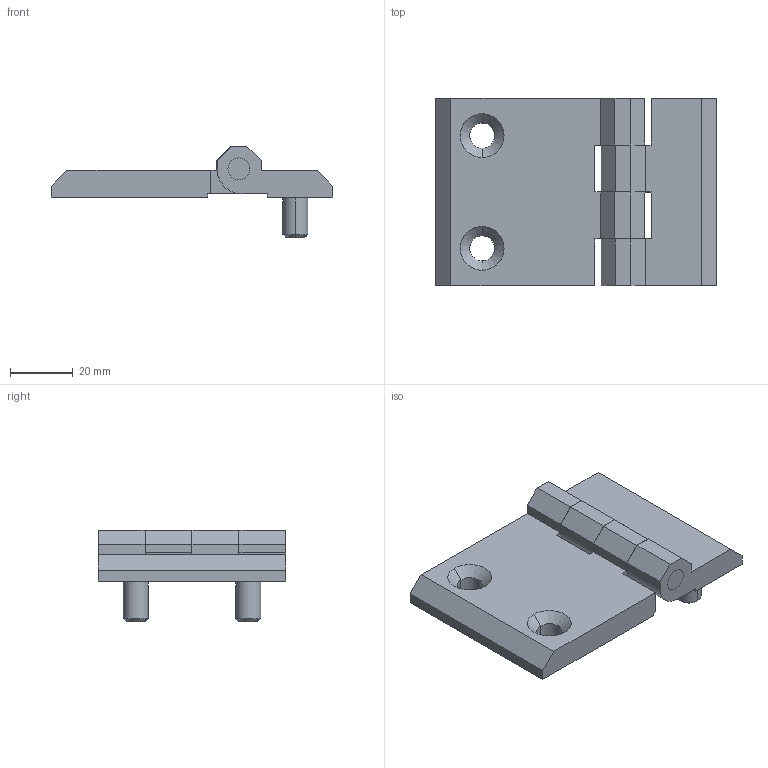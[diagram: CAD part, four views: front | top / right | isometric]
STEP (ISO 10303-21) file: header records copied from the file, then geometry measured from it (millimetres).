
FILE_DESCRIPTION (( 'STEP AP214' ), '1' );
FILE_NAME ('3.512.3.STEP', '2012-01-27T11:54:35', ( 'Techniczny' ), ( 'RST Roztocze' ), 'SwSTEP 2.0', 'SolidWorks 2010', '' );
FILE_SCHEMA (( 'AUTOMOTIVE_DESIGN' ));
Length unit declared in the file: millimetre
Products named in the file (4): 350-1.01; sworzen; 350-1.02; 3.512.3
Assembly tree (3 placements, depth 2):
  3.512.3
    sworzen
    350-1.01
    350-1.02
Bounding box: 90 x 60 x 29.25 mm (x, y, z)
Volume: 43530.1 mm3; surface area: 19919.5 mm2
Topology: 3 solids, 3 shells, 158 faces, 406 edges, 268 vertices
Faces by surface type: plane 103, cylinder 43, cone 8, bspline 4
Entity records: 5168 total; most frequent: CARTESIAN_POINT 890, ORIENTED_EDGE 812, DIRECTION 812, EDGE_CURVE 406, LINE 304, VECTOR 304, VERTEX_POINT 268, AXIS2_PLACEMENT_3D 254
